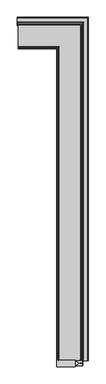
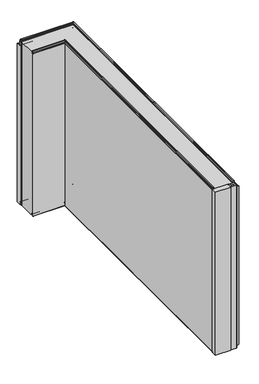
"""IFC4 building model written with IfcOpenShell, lengths in millimetres: plate geometry, Угловой модуль Fronttop : Угловой модуль Fronttop 150/1000."""

from ifc_helpers import new_model, si_unit, point, frame, frame_2d, origin, origin_with_axes, place, context, project, spatial, polyline, circle_curve, ellipse_curve, trimmed, segment, composite_curve, outline, extrude, source, transform, mapped, element, save
from ifc_brep_helpers import plane_surface, cylinder_surface, revolved_surface, advanced_brep


def plate_8496f46f(model_context):
    return source(origin(), model_context, "Body", "SolidModel", [
        extrude(outline(polyline([(150.0, -1488.4948846), (150.0, -1511.5051154), (148.5, -1511.5051154), (148.5, -1500.6502496), (134.0759655, -1500.6502496), (134.0759655, -1499.35), (148.5, -1499.35), (148.5, -1488.4948846), (150.0, -1488.4948846)])), origin_with_axes(), (0.0, 0.0, 1.0), 1000.0),
        extrude(outline(composite_curve([segment(polyline([(148.5, -1487.4998455), (148.5, -1499.25), (132.5, -1499.25), (132.5, -1500.75), (148.5, -1500.75), (148.5, -1512.5001545), (115.0, -1512.5001545), (115.0, -1509.75), (117.5, -1509.75)]), True, "CONTINUOUS"), segment(trimmed(circle_curve(frame_2d((114.3183984, -1491.9661979)), 18.0661619), [point((117.5, -1509.75))], [point((130.5, -1500.0))], True, "CARTESIAN"), True, "CONTINUOUS"), segment(trimmed(circle_curve(frame_2d((114.3183984, -1508.0338021)), 18.0661619), [point((130.5, -1500.0))], [point((117.5, -1490.25))], True, "CARTESIAN"), True, "CONTINUOUS"), segment(polyline([(117.5, -1490.25), (115.0, -1490.25), (115.0, -1487.4998455), (148.5, -1487.4998455)]), True, "CONTINUOUS")], self_intersect=False)), origin_with_axes(), (0.0, 0.0, 1.0), 1000.0),
        extrude(outline(polyline([(25.0, -1515.5), (25.0, -1484.5), (113.0, -1484.5), (113.0, -1515.5), (25.0, -1515.5)])), origin_with_axes(), (0.0, 0.0, 1.0), 1000.0),
        advanced_brep(
        [(-161.5, 124.0, 1008.0), (-161.5, 121.0, 1008.0), (-161.5, 121.0, 1004.0), (-161.5, 117.0, 1000.0), (-161.5, 115.0, 1000.0), (-161.5, 115.0, 1001.0), (-161.5, 117.0, 1001.0), (-161.5, 120.0, 1004.0), (-161.5, 120.0, 1008.0), (-161.5, 125.0, 1008.0), (-161.5, 125.0, 1000.0), (-161.5, 124.0, 1000.0), (-161.5, 115.0, 2.0), (140.0, 115.0, 2.0), (140.0, 115.0, 3.0), (-161.5, 115.0, 3.0), (140.0, -1486.5, 3.0), (142.0, -1486.5, 3.0), (142.0, 117.0, 3.0), (-161.5, 117.0, 3.0), (143.0, 118.0, 4.0), (-161.5, 118.0, 4.0), (143.0, 118.0, 8.0), (-161.5, 118.0, 8.0), (152.0, 127.0, 8.0), (-161.5, 127.0, 8.0), (152.0, 127.0, 0.0), (-161.5, 127.0, 0.0), (154.0, 129.0, -2.0), (-161.5, 129.0, -2.0), (154.0, -1486.5, -2.0), (172.0, -1486.5, -2.0), (172.0, 147.0, -2.0), (-161.5, 147.0, -2.0), (174.0, 149.0, 0.0), (-161.5, 149.0, 0.0), (174.0, 149.0, 969.0), (-161.5, 149.0, 969.0), (172.0, 147.0, 971.0), (-161.5, 147.0, 971.0), (172.0, -1486.5, 971.0), (153.0, -1486.5, 971.0), (153.0, 128.0, 971.0), (-161.5, 128.0, 971.0), (149.0, 124.0, 975.0), (-161.5, 124.0, 975.0), (149.0, 124.0, 1008.0), (146.0, 121.0, 1008.0), (146.0, 121.0, 1004.0), (142.0, 117.0, 1000.0), (142.0, -1486.5, 1000.0), (140.0, -1486.5, 1000.0), (140.0, 115.0, 1000.0), (140.0, 115.0, 1001.0), (140.0, -1486.5, 1001.0), (142.0, -1486.5, 1001.0), (142.0, 117.0, 1001.0), (145.0, 120.0, 1004.0), (145.0, 120.0, 1008.0), (150.0, 125.0, 1008.0), (150.0, 125.0, 975.0), (-161.5, 125.0, 975.0), (-162.5, 125.0, 975.0), (-162.5, 125.0, 1000.0), (153.0, 128.0, 972.0), (-161.5, 128.0, 972.0), (153.0, -1486.5, 972.0), (153.0, -1487.5, 972.0), (172.0, -1487.5, 972.0), (172.0, -1486.5, 972.0), (172.0, 147.0, 972.0), (-161.5, 147.0, 972.0), (-162.5, 147.0, 972.0), (-162.5, 128.0, 972.0), (175.0, 150.0, 969.0), (-161.5, 150.0, 969.0), (175.0, 150.0, 0.0), (-161.5, 150.0, 0.0), (-162.5, 150.0, 0.0), (-162.5, 150.0, 969.0), (172.0, 147.0, -3.0), (-161.5, 147.0, -3.0), (172.0, -1486.5, -3.0), (172.0, -1487.5, -3.0), (150.0, -1487.5, -3.0), (150.0, -1486.5, -3.0), (154.0, -1486.5, -3.0), (154.0, 129.0, -3.0), (-161.5, 129.0, -3.0), (-161.5, 125.0, -3.0), (-162.5, 125.0, -3.0), (-162.5, 147.0, -3.0), (151.0, 126.0, 0.0), (-161.5, 126.0, 0.0), (151.0, 126.0, 8.0), (-161.5, 126.0, 8.0), (144.0, 119.0, 8.0), (-161.5, 119.0, 8.0), (144.0, 119.0, 4.0), (-161.5, 119.0, 4.0), (142.0, 117.0, 2.0), (-161.5, 117.0, 2.0), (142.0, -1486.5, 2.0), (140.0, -1486.5, 2.0), (146.0, -1486.5, 1004.0), (146.0, -1486.5, 1008.0), (149.0, -1486.5, 1008.0), (149.0, -1486.5, 1000.0), (150.0, -1486.5, 1000.0), (150.0, -1486.5, 1008.0), (145.0, -1486.5, 1008.0), (145.0, -1486.5, 1004.0), (143.0, -1486.5, 4.0), (143.0, -1486.5, 8.0), (152.0, -1486.5, 8.0), (152.0, -1486.5, 0.0), (174.0, -1486.5, 0.0), (174.0, -1486.5, 969.0), (149.0, -1486.5, 975.0), (150.0, -1487.5, 1000.0), (150.0, -1487.5, 975.0), (150.0, -1486.5, 975.0), (175.0, -1486.5, 969.0), (175.0, -1487.5, 969.0), (175.0, -1487.5, 0.0), (175.0, -1486.5, 0.0), (151.0, -1486.5, 0.0), (151.0, -1486.5, 8.0), (144.0, -1486.5, 8.0), (144.0, -1486.5, 4.0), (-161.5, 110.0, 1000.0), (-161.5, 110.0, 0.0), (-161.5, 125.0, 0.0), (-162.5, 125.0, 0.0), (-162.5, 110.0, 0.0), (-162.5, 110.0, 1000.0), (135.0, -1486.5, 0.0), (135.0, -1486.5, 1000.0), (150.0, -1486.5, 0.0), (135.0, -1487.5, 0.0), (150.0, -1487.5, 0.0), (135.0, -1487.5, 1000.0)],
        [
            (0, 1, circle_curve(frame((-161.5, 122.5, 1008.0), z_axis=(1.0, 0.0, 0.0), x_axis=(0.0, -1.0, 0.0)), 1.5)),
            (1, 2),
            (2, 3, circle_curve(frame((-161.5, 117.0, 1004.0), z_axis=(-1.0, 0.0, 0.0), x_axis=(0.0, -1.0, 0.0)), 4.0)),
            (3, 4),
            (4, 5),
            (5, 6),
            (6, 7, circle_curve(frame((-161.5, 117.0, 1004.0), z_axis=(1.0, 0.0, 0.0), x_axis=(0.0, -1.0, 0.0)), 3.0)),
            (7, 8),
            (8, 9, circle_curve(frame((-161.5, 122.5, 1008.0), z_axis=(-1.0, 0.0, 0.0), x_axis=(0.0, -1.0, 0.0)), 2.5)),
            (9, 10),
            (10, 11),
            (11, 0),
            (12, 13),
            (13, 14),
            (14, 15),
            (15, 12),
            (14, 16),
            (16, 17),
            (17, 18),
            (18, 19),
            (19, 15),
            (18, 20, ellipse_curve(frame((142.0, 117.0, 4.0), z_axis=(0.7071067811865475, -0.7071067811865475, 0.0), x_axis=(0.7071067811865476, 0.7071067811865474, 0.0)), 1.4142136, 1.0)),
            (20, 21),
            (21, 19, circle_curve(frame((-161.5, 117.0, 4.0), z_axis=(-1.0, 0.0, 0.0), x_axis=(0.0, -1.0, 0.0)), 1.0)),
            (20, 22),
            (22, 23),
            (23, 21),
            (22, 24, ellipse_curve(frame((147.5, 122.5, 8.0), z_axis=(-0.7071067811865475, 0.7071067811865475, 0.0), x_axis=(-0.7071067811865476, -0.7071067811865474, 0.0)), 6.363961, 4.5)),
            (24, 25),
            (25, 23, circle_curve(frame((-161.5, 122.5, 8.0), z_axis=(1.0, 0.0, 0.0), x_axis=(0.0, -1.0, 0.0)), 4.5)),
            (24, 26),
            (26, 27),
            (27, 25),
            (26, 28, ellipse_curve(frame((154.0, 129.0, 0.0), z_axis=(0.7071067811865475, -0.7071067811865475, 0.0), x_axis=(0.7071067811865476, 0.7071067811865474, 0.0)), 2.8284271, 2.0)),
            (28, 29),
            (29, 27, circle_curve(frame((-161.5, 129.0, 0.0), z_axis=(-1.0, 0.0, 0.0), x_axis=(0.0, -1.0, 0.0)), 2.0)),
            (28, 30),
            (30, 31),
            (31, 32),
            (32, 33),
            (33, 29),
            (32, 34, ellipse_curve(frame((172.0, 147.0, 0.0), z_axis=(0.7071067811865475, -0.7071067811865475, 0.0), x_axis=(0.7071067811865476, 0.7071067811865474, 0.0)), 2.8284271, 2.0)),
            (34, 35),
            (35, 33, circle_curve(frame((-161.5, 147.0, 0.0), z_axis=(-1.0, 0.0, 0.0), x_axis=(0.0, -1.0, 0.0)), 2.0)),
            (34, 36),
            (36, 37),
            (37, 35),
            (36, 38, ellipse_curve(frame((172.0, 147.0, 969.0), z_axis=(0.7071067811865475, -0.7071067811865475, 0.0), x_axis=(0.7071067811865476, 0.7071067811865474, 0.0)), 2.8284271, 2.0)),
            (38, 39),
            (39, 37, circle_curve(frame((-161.5, 147.0, 969.0), z_axis=(-1.0, 0.0, 0.0), x_axis=(0.0, -1.0, 0.0)), 2.0)),
            (38, 40),
            (40, 41),
            (41, 42),
            (42, 43),
            (43, 39),
            (42, 44, ellipse_curve(frame((153.0, 128.0, 975.0), z_axis=(-0.7071067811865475, 0.7071067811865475, 0.0), x_axis=(-0.7071067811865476, -0.7071067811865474, 0.0)), 5.6568542, 4.0)),
            (44, 45),
            (45, 43, circle_curve(frame((-161.5, 128.0, 975.0), z_axis=(1.0, 0.0, 0.0), x_axis=(0.0, -1.0, 0.0)), 4.0)),
            (44, 46),
            (46, 0),
            (11, 45),
            (46, 47, ellipse_curve(frame((147.5, 122.5, 1008.0), z_axis=(0.7071067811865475, -0.7071067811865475, 0.0), x_axis=(0.7071067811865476, 0.7071067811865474, 0.0)), 2.1213203, 1.5)),
            (47, 1),
            (47, 48),
            (48, 2),
            (48, 49, ellipse_curve(frame((142.0, 117.0, 1004.0), z_axis=(-0.7071067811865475, 0.7071067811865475, 0.0), x_axis=(-0.7071067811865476, -0.7071067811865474, 0.0)), 5.6568542, 4.0)),
            (49, 3),
            (49, 50),
            (50, 51),
            (51, 52),
            (52, 4),
            (4, 3),
            (52, 53),
            (53, 5),
            (53, 54),
            (54, 55),
            (55, 56),
            (56, 6),
            (56, 57, ellipse_curve(frame((142.0, 117.0, 1004.0), z_axis=(0.7071067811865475, -0.7071067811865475, 0.0), x_axis=(0.7071067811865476, 0.7071067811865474, 0.0)), 4.2426407, 3.0)),
            (57, 7),
            (57, 58),
            (58, 8),
            (58, 59, ellipse_curve(frame((147.5, 122.5, 1008.0), z_axis=(-0.7071067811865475, 0.7071067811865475, 0.0), x_axis=(-0.7071067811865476, -0.7071067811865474, 0.0)), 3.5355339, 2.5)),
            (59, 9),
            (59, 60),
            (60, 61),
            (61, 62),
            (62, 63),
            (63, 10),
            (60, 64, ellipse_curve(frame((153.0, 128.0, 975.0), z_axis=(0.7071067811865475, -0.7071067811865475, 0.0), x_axis=(0.7071067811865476, 0.7071067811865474, 0.0)), 4.2426407, 3.0)),
            (64, 65),
            (65, 61, circle_curve(frame((-161.5, 128.0, 975.0), z_axis=(-1.0, 0.0, 0.0), x_axis=(0.0, -1.0, 0.0)), 3.0)),
            (64, 66),
            (66, 67),
            (67, 68),
            (68, 69),
            (69, 70),
            (70, 71),
            (71, 72),
            (72, 73),
            (73, 65),
            (70, 74, ellipse_curve(frame((172.0, 147.0, 969.0), z_axis=(-0.7071067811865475, 0.7071067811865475, 0.0), x_axis=(-0.7071067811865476, -0.7071067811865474, 0.0)), 4.2426407, 3.0)),
            (74, 75),
            (75, 71, circle_curve(frame((-161.5, 147.0, 969.0), z_axis=(1.0, 0.0, 0.0), x_axis=(0.0, -1.0, 0.0)), 3.0)),
            (74, 76),
            (76, 77),
            (77, 78),
            (78, 79),
            (79, 75),
            (76, 80, ellipse_curve(frame((172.0, 147.0, 0.0), z_axis=(-0.7071067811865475, 0.7071067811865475, 0.0), x_axis=(-0.7071067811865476, -0.7071067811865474, 0.0)), 4.2426407, 3.0)),
            (80, 81),
            (81, 77, circle_curve(frame((-161.5, 147.0, 0.0), z_axis=(1.0, 0.0, 0.0), x_axis=(0.0, -1.0, 0.0)), 3.0)),
            (80, 82),
            (82, 83),
            (83, 84),
            (84, 85),
            (85, 86),
            (86, 87),
            (87, 88),
            (88, 89),
            (89, 90),
            (90, 91),
            (91, 81),
            (87, 92, ellipse_curve(frame((154.0, 129.0, 0.0), z_axis=(-0.7071067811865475, 0.7071067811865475, 0.0), x_axis=(-0.7071067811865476, -0.7071067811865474, 0.0)), 4.2426407, 3.0)),
            (92, 93),
            (93, 88, circle_curve(frame((-161.5, 129.0, 0.0), z_axis=(1.0, 0.0, 0.0), x_axis=(0.0, -1.0, 0.0)), 3.0)),
            (92, 94),
            (94, 95),
            (95, 93),
            (94, 96, ellipse_curve(frame((147.5, 122.5, 8.0), z_axis=(0.7071067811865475, -0.7071067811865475, 0.0), x_axis=(0.7071067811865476, 0.7071067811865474, 0.0)), 4.9497475, 3.5)),
            (96, 97),
            (97, 95, circle_curve(frame((-161.5, 122.5, 8.0), z_axis=(-1.0, 0.0, 0.0), x_axis=(0.0, -1.0, 0.0)), 3.5)),
            (96, 98),
            (98, 99),
            (99, 97),
            (98, 100, ellipse_curve(frame((142.0, 117.0, 4.0), z_axis=(-0.7071067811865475, 0.7071067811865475, 0.0), x_axis=(-0.7071067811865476, -0.7071067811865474, 0.0)), 2.8284271, 2.0)),
            (100, 101),
            (101, 99, circle_curve(frame((-161.5, 117.0, 4.0), z_axis=(1.0, 0.0, 0.0), x_axis=(0.0, -1.0, 0.0)), 2.0)),
            (12, 101),
            (100, 102),
            (102, 103),
            (103, 13),
            (54, 51),
            (51, 50),
            (50, 104, circle_curve(frame((142.0, -1486.5, 1004.0), z_axis=(0.0, -1.0, 0.0), x_axis=(-1.0, 0.0, 0.0)), 4.0)),
            (104, 105),
            (105, 106, circle_curve(frame((147.5, -1486.5, 1008.0), z_axis=(0.0, 1.0, 0.0), x_axis=(-1.0, 0.0, 0.0)), 1.5)),
            (106, 107),
            (107, 108),
            (108, 109),
            (109, 110, circle_curve(frame((147.5, -1486.5, 1008.0), z_axis=(0.0, -1.0, 0.0), x_axis=(-1.0, 0.0, 0.0)), 2.5)),
            (110, 111),
            (111, 55, circle_curve(frame((142.0, -1486.5, 1004.0), z_axis=(0.0, 1.0, 0.0), x_axis=(-1.0, 0.0, 0.0)), 3.0)),
            (103, 16),
            (17, 112, circle_curve(frame((142.0, -1486.5, 4.0), z_axis=(0.0, -1.0, 0.0), x_axis=(-1.0, 0.0, 0.0)), 1.0)),
            (112, 20),
            (112, 113),
            (113, 22),
            (113, 114, circle_curve(frame((147.5, -1486.5, 8.0), z_axis=(0.0, 1.0, 0.0), x_axis=(-1.0, 0.0, 0.0)), 4.5)),
            (114, 24),
            (114, 115),
            (115, 26),
            (115, 30, circle_curve(frame((154.0, -1486.5, 0.0), z_axis=(0.0, -1.0, 0.0), x_axis=(-1.0, 0.0, 0.0)), 2.0)),
            (31, 116, circle_curve(frame((172.0, -1486.5, 0.0), z_axis=(0.0, -1.0, 0.0), x_axis=(-1.0, 0.0, 0.0)), 2.0)),
            (116, 34),
            (116, 117),
            (117, 36),
            (117, 40, circle_curve(frame((172.0, -1486.5, 969.0), z_axis=(0.0, -1.0, 0.0), x_axis=(-1.0, 0.0, 0.0)), 2.0)),
            (41, 118, circle_curve(frame((153.0, -1486.5, 975.0), z_axis=(0.0, 1.0, 0.0), x_axis=(-1.0, 0.0, 0.0)), 4.0)),
            (118, 44),
            (118, 107),
            (106, 46),
            (105, 47),
            (104, 48),
            (111, 57),
            (110, 58),
            (109, 59),
            (108, 119),
            (119, 120),
            (120, 121),
            (121, 60),
            (121, 66, circle_curve(frame((153.0, -1486.5, 975.0), z_axis=(0.0, -1.0, 0.0), x_axis=(-1.0, 0.0, 0.0)), 3.0)),
            (69, 122, circle_curve(frame((172.0, -1486.5, 969.0), z_axis=(0.0, 1.0, 0.0), x_axis=(-1.0, 0.0, 0.0)), 3.0)),
            (122, 74),
            (122, 123),
            (123, 124),
            (124, 125),
            (125, 76),
            (125, 82, circle_curve(frame((172.0, -1486.5, 0.0), z_axis=(0.0, 1.0, 0.0), x_axis=(-1.0, 0.0, 0.0)), 3.0)),
            (86, 126, circle_curve(frame((154.0, -1486.5, 0.0), z_axis=(0.0, 1.0, 0.0), x_axis=(-1.0, 0.0, 0.0)), 3.0)),
            (126, 92),
            (126, 127),
            (127, 94),
            (127, 128, circle_curve(frame((147.5, -1486.5, 8.0), z_axis=(0.0, -1.0, 0.0), x_axis=(-1.0, 0.0, 0.0)), 3.5)),
            (128, 96),
            (128, 129),
            (129, 98),
            (129, 102, circle_curve(frame((142.0, -1486.5, 4.0), z_axis=(0.0, 1.0, 0.0), x_axis=(-1.0, 0.0, 0.0)), 2.0)),
            (130, 131),
            (131, 132),
            (132, 89),
            (11, 3),
            (4, 130),
            (62, 73, circle_curve(frame((-162.5, 128.0, 975.0), z_axis=(1.0, 0.0, 0.0), x_axis=(0.0, 1.0, 0.0)), 3.0)),
            (72, 79, circle_curve(frame((-162.5, 147.0, 969.0), z_axis=(-1.0, 0.0, 0.0), x_axis=(0.0, 1.0, 0.0)), 3.0)),
            (78, 91, circle_curve(frame((-162.5, 147.0, 0.0), z_axis=(-1.0, 0.0, 0.0), x_axis=(0.0, 1.0, 0.0)), 3.0)),
            (90, 133),
            (133, 134),
            (134, 135),
            (135, 63),
            (135, 130),
            (134, 131),
            (133, 132),
            (136, 137),
            (137, 51),
            (50, 107),
            (85, 138),
            (138, 136),
            (139, 140),
            (140, 84),
            (83, 124, circle_curve(frame((172.0, -1487.5, 0.0), z_axis=(0.0, -1.0, 0.0), x_axis=(-1.0, 0.0, 0.0)), 3.0)),
            (123, 68, circle_curve(frame((172.0, -1487.5, 969.0), z_axis=(0.0, -1.0, 0.0), x_axis=(-1.0, 0.0, 0.0)), 3.0)),
            (67, 120, circle_curve(frame((153.0, -1487.5, 975.0), z_axis=(0.0, 1.0, 0.0), x_axis=(-1.0, 0.0, 0.0)), 3.0)),
            (119, 141),
            (141, 139),
            (138, 140),
            (139, 136),
            (137, 141),
        ],
        [
            plane_surface(frame((-161.5, 0.0, 0.0), z_axis=(-1.0, 0.0, 0.0), x_axis=(0.0, 0.0, 1.0))),
            plane_surface(frame((-161.5, 115.0, 2.0), z_axis=(0.0, -1.0, 0.0), x_axis=(1.0, 0.0, 0.0))),
            plane_surface(frame((-161.5, 115.0, 3.0), z_axis=(0.0, 0.0, 1.0), x_axis=(1.0, 0.0, 0.0))),
            revolved_surface(polyline([(143.00000002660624, 116.0, 4.0), (-161.5, 116.0, 4.0)]), (-161.5, 117.0, 4.0), (1.0, 0.0, 0.0)),
            plane_surface(frame((-161.5, 118.0, 4.0), z_axis=(0.0, -1.0, 0.0), x_axis=(1.0, 0.0, 0.0))),
            cylinder_surface(frame((-161.5, 122.5, 8.0), z_axis=(-1.0, 0.0, 0.0), x_axis=(0.0, -1.0, 0.0)), 4.5),
            plane_surface(frame((-161.5, 127.0, 8.0), z_axis=(0.0, 1.0, 0.0), x_axis=(1.0, 0.0, 0.0))),
            revolved_surface(polyline([(155.99999998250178, 127.0, 0.0), (-161.5, 127.0, 0.0)]), (-161.5, 129.0, 0.0), (1.0, 0.0, 0.0)),
            plane_surface(frame((-161.5, 129.0, -2.0), z_axis=(0.0, 0.0, 1.0), x_axis=(1.0, 0.0, 0.0))),
            revolved_surface(polyline([(174.0, 145.0, 0.0), (-161.5, 145.0, 0.0)]), (-161.5, 147.0, 0.0), (1.0, 0.0, 0.0)),
            plane_surface(frame((-161.5, 149.0, 0.0), z_axis=(0.0, -1.0, 0.0), x_axis=(1.0, 0.0, 0.0))),
            revolved_surface(polyline([(174.0, 145.0, 969.0), (-161.5, 145.0, 969.0)]), (-161.5, 147.0, 969.0), (1.0, 0.0, 0.0)),
            plane_surface(frame((-161.5, 147.0, 971.0), z_axis=(0.0, 0.0, -1.0), x_axis=(1.0, 0.0, 0.0))),
            cylinder_surface(frame((-161.5, 128.0, 975.0), z_axis=(-1.0, 0.0, 0.0), x_axis=(0.0, -1.0, 0.0)), 4.0),
            plane_surface(frame((-161.5, 124.0, 975.0), z_axis=(0.0, -1.0, 0.0), x_axis=(1.0, 0.0, 0.0))),
            revolved_surface(polyline([(149.0, 121.0, 1008.0), (-161.5, 121.0, 1008.0)]), (-161.5, 122.5, 1008.0), (1.0, 0.0, 0.0)),
            plane_surface(frame((-161.5, 121.0, 1008.0), z_axis=(0.0, 1.0, 0.0), x_axis=(1.0, 0.0, 0.0))),
            cylinder_surface(frame((-161.5, 117.0, 1004.0), z_axis=(-1.0, 0.0, 0.0), x_axis=(0.0, -1.0, 0.0)), 4.0),
            plane_surface(frame((-161.5, 117.0, 1000.0), z_axis=(0.0, 0.0, -1.0), x_axis=(1.0, 0.0, 0.0))),
            plane_surface(frame((-161.5, 115.0, 1000.0), z_axis=(0.0, -1.0, 0.0), x_axis=(1.0, 0.0, 0.0))),
            plane_surface(frame((-161.5, 115.0, 1001.0), z_axis=(0.0, 0.0, 1.0), x_axis=(1.0, 0.0, 0.0))),
            revolved_surface(polyline([(145.00000000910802, 114.0, 1004.0), (-161.5, 114.0, 1004.0)]), (-161.5, 117.0, 1004.0), (1.0, 0.0, 0.0)),
            plane_surface(frame((-161.5, 120.0, 1004.0), z_axis=(0.0, -1.0, 0.0), x_axis=(1.0, 0.0, 0.0))),
            cylinder_surface(frame((-161.5, 122.5, 1008.0), z_axis=(-1.0, 0.0, 0.0), x_axis=(0.0, -1.0, 0.0)), 2.5),
            plane_surface(frame((-161.5, 125.0, 1008.0), z_axis=(0.0, 1.0, 0.0), x_axis=(1.0, 0.0, 0.0))),
            revolved_surface(polyline([(156.00000000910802, 125.0, 975.0), (-161.5, 125.0, 975.0)]), (-161.5, 128.0, 975.0), (1.0, 0.0, 0.0)),
            plane_surface(frame((-161.5, 128.0, 972.0), z_axis=(0.0, 0.0, 1.0), x_axis=(1.0, 0.0, 0.0))),
            cylinder_surface(frame((-161.5, 147.0, 969.0), z_axis=(-1.0, 0.0, 0.0), x_axis=(0.0, -1.0, 0.0)), 3.0),
            plane_surface(frame((-161.5, 150.0, 969.0), z_axis=(0.0, 1.0, 0.0), x_axis=(1.0, 0.0, 0.0))),
            cylinder_surface(frame((-161.5, 147.0, 0.0), z_axis=(-1.0, 0.0, 0.0), x_axis=(0.0, -1.0, 0.0)), 3.0),
            plane_surface(frame((-161.5, 147.0, -3.0), z_axis=(0.0, 0.0, -1.0), x_axis=(1.0, 0.0, 0.0))),
            cylinder_surface(frame((-161.5, 129.0, 0.0), z_axis=(-1.0, 0.0, 0.0), x_axis=(0.0, -1.0, 0.0)), 3.0),
            plane_surface(frame((-161.5, 126.0, 0.0), z_axis=(0.0, -1.0, 0.0), x_axis=(1.0, 0.0, 0.0))),
            revolved_surface(polyline([(151.00000002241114, 119.0, 8.0), (-161.5, 119.0, 8.0)]), (-161.5, 122.5, 8.0), (1.0, 0.0, 0.0)),
            plane_surface(frame((-161.5, 119.0, 8.0), z_axis=(0.0, 1.0, 0.0), x_axis=(1.0, 0.0, 0.0))),
            cylinder_surface(frame((-161.5, 117.0, 4.0), z_axis=(-1.0, 0.0, 0.0), x_axis=(0.0, -1.0, 0.0)), 2.0),
            plane_surface(frame((-161.5, 117.0, 2.0), z_axis=(0.0, 0.0, -1.0), x_axis=(1.0, 0.0, 0.0))),
            plane_surface(frame((25.0, -1486.5, 0.0), z_axis=(0.0, -1.0, 0.0), x_axis=(0.0, 0.0, 1.0))),
            plane_surface(frame((140.0, 115.0, 2.0), z_axis=(-1.0, 0.0, 0.0), x_axis=(0.0, -1.0, 0.0))),
            revolved_surface(polyline([(141.0, -1486.5, 4.0), (141.0, 118.00000002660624, 4.0)]), (142.0, 0.0, 4.0), (0.0, -1.0, 0.0)),
            plane_surface(frame((143.0, 118.0, 4.0), z_axis=(-1.0, 0.0, 0.0), x_axis=(0.0, -1.0, 0.0))),
            cylinder_surface(frame((147.5, 0.0, 8.0), z_axis=(0.0, 1.0, 0.0), x_axis=(-1.0, 0.0, 0.0)), 4.5),
            plane_surface(frame((152.0, 127.0, 8.0), z_axis=(1.0, 0.0, 0.0), x_axis=(0.0, -1.0, 0.0))),
            revolved_surface(polyline([(152.0, -1486.5, 0.0), (152.0, 130.9999999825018, 0.0)]), (154.0, 0.0, 0.0), (0.0, -1.0, 0.0)),
            revolved_surface(polyline([(170.0, -1486.5, 0.0), (170.0, 149.0, 0.0)]), (172.0, 0.0, 0.0), (0.0, -1.0, 0.0)),
            plane_surface(frame((174.0, 149.0, 0.0), z_axis=(-1.0, 0.0, 0.0), x_axis=(0.0, -1.0, 0.0))),
            revolved_surface(polyline([(170.0, -1486.5, 969.0), (170.0, 149.0, 969.0)]), (172.0, 0.0, 969.0), (0.0, -1.0, 0.0)),
            cylinder_surface(frame((153.0, 0.0, 975.0), z_axis=(0.0, 1.0, 0.0), x_axis=(-1.0, 0.0, 0.0)), 4.0),
            plane_surface(frame((149.0, 124.0, 975.0), z_axis=(-1.0, 0.0, 0.0), x_axis=(0.0, -1.0, 0.0))),
            revolved_surface(polyline([(146.0, -1486.5, 1008.0), (146.0, 124.0, 1008.0)]), (147.5, 0.0, 1008.0), (0.0, -1.0, 0.0)),
            plane_surface(frame((146.0, 121.0, 1008.0), z_axis=(1.0, 0.0, 0.0), x_axis=(0.0, -1.0, 0.0))),
            cylinder_surface(frame((142.0, 0.0, 1004.0), z_axis=(0.0, 1.0, 0.0), x_axis=(-1.0, 0.0, 0.0)), 4.0),
            plane_surface(frame((140.0, 115.0, 1000.0), z_axis=(-1.0, 0.0, 0.0), x_axis=(0.0, -1.0, 0.0))),
            revolved_surface(polyline([(139.0, -1486.5, 1004.0), (139.0, 120.00000000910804, 1004.0)]), (142.0, 0.0, 1004.0), (0.0, -1.0, 0.0)),
            plane_surface(frame((145.0, 120.0, 1004.0), z_axis=(-1.0, 0.0, 0.0), x_axis=(0.0, -1.0, 0.0))),
            cylinder_surface(frame((147.5, 0.0, 1008.0), z_axis=(0.0, 1.0, 0.0), x_axis=(-1.0, 0.0, 0.0)), 2.5),
            plane_surface(frame((150.0, 125.0, 1008.0), z_axis=(1.0, 0.0, 0.0), x_axis=(0.0, -1.0, 0.0))),
            revolved_surface(polyline([(150.0, -1486.5, 975.0), (150.0, 131.00000000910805, 975.0)]), (153.0, 0.0, 975.0), (0.0, -1.0, 0.0)),
            cylinder_surface(frame((172.0, 0.0, 969.0), z_axis=(0.0, 1.0, 0.0), x_axis=(-1.0, 0.0, 0.0)), 3.0),
            plane_surface(frame((175.0, 150.0, 969.0), z_axis=(1.0, 0.0, 0.0), x_axis=(0.0, -1.0, 0.0))),
            cylinder_surface(frame((172.0, 0.0, 0.0), z_axis=(0.0, 1.0, 0.0), x_axis=(-1.0, 0.0, 0.0)), 3.0),
            cylinder_surface(frame((154.0, 0.0, 0.0), z_axis=(0.0, 1.0, 0.0), x_axis=(-1.0, 0.0, 0.0)), 3.0),
            plane_surface(frame((151.0, 126.0, 0.0), z_axis=(-1.0, 0.0, 0.0), x_axis=(0.0, -1.0, 0.0))),
            revolved_surface(polyline([(144.0, -1486.5, 8.0), (144.0, 126.00000002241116, 8.0)]), (147.5, 0.0, 8.0), (0.0, -1.0, 0.0)),
            plane_surface(frame((144.0, 119.0, 8.0), z_axis=(1.0, 0.0, 0.0), x_axis=(0.0, -1.0, 0.0))),
            cylinder_surface(frame((142.0, 0.0, 4.0), z_axis=(0.0, 1.0, 0.0), x_axis=(-1.0, 0.0, 0.0)), 2.0),
            plane_surface(frame((-161.5, 125.0, 1000.0), z_axis=(1.0, 0.0, 0.0), x_axis=(0.0, -1.0, 0.0))),
            plane_surface(frame((-162.5, 125.0, 1000.0), z_axis=(-1.0, 0.0, 0.0), x_axis=(0.0, 1.0, 0.0))),
            plane_surface(frame((-161.5, 125.0, 1000.0), z_axis=(0.0, 0.0, 1.0), x_axis=(-1.0, 0.0, 0.0))),
            plane_surface(frame((-161.5, 110.0, 1000.0), z_axis=(0.0, -1.0, 0.0), x_axis=(-1.0, 0.0, 0.0))),
            plane_surface(frame((-161.5, 110.0, 0.0), z_axis=(0.0, 0.0, -1.0), x_axis=(-1.0, 0.0, 0.0))),
            plane_surface(frame((-161.5, 125.0, 0.0), z_axis=(0.0, -1.0, 0.0), x_axis=(-1.0, 0.0, 0.0))),
            cylinder_surface(frame((-162.5, 147.0, 0.0), z_axis=(1.0, 0.0, 0.0), x_axis=(0.0, 1.0, 0.0)), 3.0),
            cylinder_surface(frame((-162.5, 147.0, 969.0), z_axis=(1.0, 0.0, 0.0), x_axis=(0.0, 1.0, 0.0)), 3.0),
            revolved_surface(polyline([(-162.5, 131.0, 975.0), (-161.5, 131.0, 975.0)]), (-162.5, 128.0, 975.0), (-1.0, 0.0, 0.0)),
            plane_surface(frame((135.0, -1486.5, 1000.0), z_axis=(0.0, 1.0, 0.0), x_axis=(0.0, 0.0, 1.0))),
            plane_surface(frame((135.0, -1487.5, 1000.0), z_axis=(0.0, -1.0, 0.0), x_axis=(0.0, 0.0, -1.0))),
            plane_surface(frame((150.0, -1486.5, 0.0), z_axis=(0.0, 0.0, -1.0), x_axis=(0.0, -1.0, 0.0))),
            plane_surface(frame((150.0, -1486.5, -3.0), z_axis=(-1.0, 0.0, 0.0), x_axis=(0.0, -1.0, 0.0))),
            cylinder_surface(frame((172.0, -1487.5, 0.0), z_axis=(0.0, 1.0, 0.0), x_axis=(-1.0, 0.0, 0.0)), 3.0),
            cylinder_surface(frame((172.0, -1487.5, 969.0), z_axis=(0.0, 1.0, 0.0), x_axis=(-1.0, 0.0, 0.0)), 3.0),
            revolved_surface(polyline([(150.0, -1487.5, 975.0), (150.0, -1486.5, 975.0)]), (153.0, -1487.5, 975.0), (0.0, -1.0, 0.0)),
            plane_surface(frame((135.0, -1486.5, 1000.0), z_axis=(0.0, 0.0, 1.0), x_axis=(0.0, -1.0, 0.0))),
            plane_surface(frame((135.0, -1486.5, 0.0), z_axis=(-1.0, 0.0, 0.0), x_axis=(0.0, -1.0, 0.0))),
        ],
        [
            (0, [[1, 2, 3, 4, 5, 6, 7, 8, 9, 10, 11, 12]]),
            (1, [[13, 14, 15, 16]]),
            (2, [[-15, 17, 18, 19, 20, 21]]),
            (3, [[-20, 22, 23, 24]]),
            (4, [[-23, 25, 26, 27]]),
            (5, [[-26, 28, 29, 30]]),
            (6, [[-29, 31, 32, 33]]),
            (7, [[-32, 34, 35, 36]]),
            (8, [[-35, 37, 38, 39, 40, 41]]),
            (9, [[-40, 42, 43, 44]]),
            (10, [[-43, 45, 46, 47]]),
            (11, [[-46, 48, 49, 50]]),
            (12, [[-49, 51, 52, 53, 54, 55]]),
            (13, [[-54, 56, 57, 58]]),
            (14, [[-57, 59, 60, -12, 61]]),
            (15, [[-1, -60, 62, 63]]),
            (16, [[-2, -63, 64, 65]]),
            (17, [[-3, -65, 66, 67]]),
            (18, [[-67, 68, 69, 70, 71, 72]]),
            (19, [[-5, -71, 73, 74]]),
            (20, [[-6, -74, 75, 76, 77, 78]]),
            (21, [[-7, -78, 79, 80]]),
            (22, [[-8, -80, 81, 82]]),
            (23, [[-9, -82, 83, 84]]),
            (24, [[-84, 85, 86, 87, 88, 89, -10]]),
            (25, [[-86, 90, 91, 92]]),
            (26, [[-91, 93, 94, 95, 96, 97, 98, 99, 100, 101]]),
            (27, [[-98, 102, 103, 104]]),
            (28, [[-103, 105, 106, 107, 108, 109]]),
            (29, [[-106, 110, 111, 112]]),
            (30, [[-111, 113, 114, 115, 116, 117, 118, 119, 120, 121, 122, 123]]),
            (31, [[-119, 124, 125, 126]]),
            (32, [[-125, 127, 128, 129]]),
            (33, [[-128, 130, 131, 132]]),
            (34, [[-131, 133, 134, 135]]),
            (35, [[-134, 136, 137, 138]]),
            (36, [[-13, 139, -137, 140, 141, 142]]),
            (37, [[-76, 143, 144, 145, 146, 147, 148, 149, 150, 151, 152, 153]]),
            (38, [[-14, -142, 154, -17]]),
            (39, [[-19, 155, 156, -22]]),
            (40, [[-25, -156, 157, 158]]),
            (41, [[-28, -158, 159, 160]]),
            (42, [[-31, -160, 161, 162]]),
            (43, [[-34, -162, 163, -37]]),
            (44, [[-39, 164, 165, -42]]),
            (45, [[-45, -165, 166, 167]]),
            (46, [[-48, -167, 168, -51]]),
            (47, [[-53, 169, 170, -56]]),
            (48, [[-59, -170, 171, -148, 172]]),
            (49, [[-62, -172, -147, 173]]),
            (50, [[-64, -173, -146, 174]]),
            (51, [[-66, -174, -145, -68]]),
            (52, [[-70, -143, -75, -73]]),
            (53, [[-77, -153, 175, -79]]),
            (54, [[-81, -175, -152, 176]]),
            (55, [[-83, -176, -151, 177]]),
            (56, [[-85, -177, -150, 178, 179, 180, 181]]),
            (57, [[-90, -181, 182, -93]]),
            (58, [[-97, 183, 184, -102]]),
            (59, [[-105, -184, 185, 186, 187, 188]]),
            (60, [[-110, -188, 189, -113]]),
            (61, [[-118, 190, 191, -124]]),
            (62, [[-127, -191, 192, 193]]),
            (63, [[-130, -193, 194, 195]]),
            (64, [[-133, -195, 196, 197]]),
            (65, [[-136, -197, 198, -140]]),
            (66, [[199, 200, 201, -120, -126, -129, -132, -135, -138, -139, -16, -21, -24, -27, -30, -33, -36, -41, -44, -47, -50, -55, -58, -61, 202, -72, 203]]),
            (67, [[-88, 204, -100, 205, -108, 206, -122, 207, 208, 209, 210]]),
            (68, [[-210, 211, -203, -4, -202, -11, -89]]),
            (69, [[-199, -211, -209, 212]]),
            (70, [[-200, -212, -208, 213]]),
            (71, [[-201, -213, -207, -121]]),
            (72, [[-206, -107, -112, -123]]),
            (73, [[-205, -99, -104, -109]]),
            (74, [[-204, -87, -92, -101]]),
            (75, [[214, 215, -69, 216, -171, -169, -52, -168, -166, -164, -38, -163, -161, -159, -157, -155, -18, -154, -141, -198, -196, -194, -192, -190, -117, 217, 218]]),
            (76, [[219, 220, -115, 221, -186, 222, -95, 223, -179, 224, 225]]),
            (77, [[-218, 226, -219, 227]]),
            (78, [[-217, -116, -220, -226]]),
            (79, [[-221, -114, -189, -187]]),
            (80, [[-222, -185, -183, -96]]),
            (81, [[-223, -94, -182, -180]]),
            (82, [[-224, -178, -149, -216, -144, -215, 228]]),
            (83, [[-214, -227, -225, -228]]),
        ],
    ),
        advanced_brep(
        [(-159.5, 15.0, 3.0), (-159.5, 13.0, 3.0), (-159.5, 12.0, 4.0), (-159.5, 12.0, 8.0), (-159.5, 3.0, 8.0), (-159.5, 3.0, -0.5), (-159.5, 1.0, -0.5), (-159.5, 1.0, 995.0278643), (-159.5, 2.1111111, 996.0216723), (-159.5, 6.0, 999.5), (-159.5, 6.0, 1008.0), (-159.5, 9.0, 1008.0), (-159.5, 9.0, 1004.0), (-159.5, 13.0, 1000.0), (-159.5, 117.0, 1000.0), (-159.5, 121.0, 1004.0), (-159.5, 121.0, 1008.0), (-159.5, 124.0, 1008.0), (-159.5, 124.0, 975.0), (-159.5, 128.0, 971.0), (-159.5, 147.0, 971.0), (-159.5, 149.0, 969.0), (-159.5, 149.0, 0.0), (-159.5, 147.0, -2.0), (-159.5, 129.0, -2.0), (-159.5, 127.0, 0.0), (-159.5, 127.0, 8.0), (-159.5, 118.0, 8.0), (-159.5, 118.0, 4.0), (-159.5, 117.0, 3.0), (-159.5, 115.0, 3.0), (-159.5, 115.0, 0.0), (-159.5, 15.0, 0.0), (40.0, 15.0, 0.0), (40.0, 15.0, 3.0), (140.0, 115.0, 0.0), (140.0, -1484.5, 0.0), (40.0, -1484.5, 0.0), (140.0, 115.0, 3.0), (142.0, 117.0, 3.0), (142.0, -1484.5, 3.0), (140.0, -1484.5, 3.0), (143.0, 118.0, 4.0), (143.0, 118.0, 8.0), (152.0, 127.0, 8.0), (152.0, 127.0, 0.0), (154.0, 129.0, -2.0), (172.0, 147.0, -2.0), (172.0, -1484.5, -2.0), (154.0, -1484.5, -2.0), (174.0, 149.0, 0.0), (174.0, 149.0, 969.0), (172.0, 147.0, 971.0), (153.0, 128.0, 971.0), (153.0, -1484.5, 971.0), (172.0, -1484.5, 971.0), (149.0, 124.0, 975.0), (149.0, 124.0, 1008.0), (146.0, 121.0, 1008.0), (146.0, 121.0, 1004.0), (142.0, 117.0, 1000.0), (38.0, 13.0, 1000.0), (38.0, -1484.5, 1000.0), (142.0, -1484.5, 1000.0), (34.0, 9.0, 1004.0), (34.0, 9.0, 1008.0), (31.0, 6.0, 1008.0), (31.0, 6.0, 999.5), (27.1111111, 2.1111111, 996.021672), (26.0, 1.0, 995.0278643), (26.0, 1.0, -0.5), (28.0, 3.0, -0.5), (28.0, 3.0, 8.0), (37.0, 12.0, 8.0), (37.0, 12.0, 4.0), (38.0, 13.0, 3.0), (40.0, -1484.5, 3.0), (38.0, -1484.5, 3.0), (143.0, -1484.5, 4.0), (143.0, -1484.5, 8.0), (152.0, -1484.5, 8.0), (152.0, -1484.5, 0.0), (174.0, -1484.5, 0.0), (174.0, -1484.5, 969.0), (149.0, -1484.5, 975.0), (149.0, -1484.5, 1008.0), (146.0, -1484.5, 1008.0), (146.0, -1484.5, 1004.0), (34.0, -1484.5, 1004.0), (34.0, -1484.5, 1008.0), (31.0, -1484.5, 1008.0), (31.0, -1484.5, 999.5), (27.1111111, -1484.5, 996.021672), (26.0, -1484.5, 995.0278643), (26.0, -1484.5, -0.5), (28.0, -1484.5, -0.5), (28.0, -1484.5, 8.0), (37.0, -1484.5, 8.0), (37.0, -1484.5, 4.0)],
        [
            (0, 1),
            (1, 2, circle_curve(frame((-159.5, 13.0, 4.0), z_axis=(-1.0, 0.0, 0.0), x_axis=(0.0, -1.0, 0.0)), 1.0)),
            (2, 3),
            (3, 4, circle_curve(frame((-159.5, 7.5, 8.0), z_axis=(1.0, 0.0, 0.0), x_axis=(0.0, -1.0, 0.0)), 4.5)),
            (4, 5),
            (5, 6, circle_curve(frame((-159.5, 2.0, -0.5), z_axis=(-1.0, 0.0, 0.0), x_axis=(0.0, -1.0, 0.0)), 1.0)),
            (6, 7),
            (7, 8, circle_curve(frame((-159.5, 2.0, 995.0278643), z_axis=(-1.0, 0.0, 0.0), x_axis=(0.0, -1.0, 0.0)), 1.0)),
            (8, 9, circle_curve(frame((-159.5, 2.5, 999.5), z_axis=(1.0, 0.0, 0.0), x_axis=(0.0, -1.0, 0.0)), 3.5)),
            (9, 10),
            (10, 11, circle_curve(frame((-159.5, 7.5, 1008.0), z_axis=(-1.0, 0.0, 0.0), x_axis=(0.0, -1.0, 0.0)), 1.5)),
            (11, 12),
            (12, 13, circle_curve(frame((-159.5, 13.0, 1004.0), z_axis=(1.0, 0.0, 0.0), x_axis=(0.0, -1.0, 0.0)), 4.0)),
            (13, 14),
            (14, 15, circle_curve(frame((-159.5, 117.0, 1004.0), z_axis=(1.0, 0.0, 0.0), x_axis=(0.0, -1.0, 0.0)), 4.0)),
            (15, 16),
            (16, 17, circle_curve(frame((-159.5, 122.5, 1008.0), z_axis=(-1.0, 0.0, 0.0), x_axis=(0.0, -1.0, 0.0)), 1.5)),
            (17, 18),
            (18, 19, circle_curve(frame((-159.5, 128.0, 975.0), z_axis=(1.0, 0.0, 0.0), x_axis=(0.0, -1.0, 0.0)), 4.0)),
            (19, 20),
            (20, 21, circle_curve(frame((-159.5, 147.0, 969.0), z_axis=(-1.0, 0.0, 0.0), x_axis=(0.0, -1.0, 0.0)), 2.0)),
            (21, 22),
            (22, 23, circle_curve(frame((-159.5, 147.0, 0.0), z_axis=(-1.0, 0.0, 0.0), x_axis=(0.0, -1.0, 0.0)), 2.0)),
            (23, 24),
            (24, 25, circle_curve(frame((-159.5, 129.0, 0.0), z_axis=(-1.0, 0.0, 0.0), x_axis=(0.0, -1.0, 0.0)), 2.0)),
            (25, 26),
            (26, 27, circle_curve(frame((-159.5, 122.5, 8.0), z_axis=(1.0, 0.0, 0.0), x_axis=(0.0, -1.0, 0.0)), 4.5)),
            (27, 28),
            (28, 29, circle_curve(frame((-159.5, 117.0, 4.0), z_axis=(-1.0, 0.0, 0.0), x_axis=(0.0, -1.0, 0.0)), 1.0)),
            (29, 30),
            (30, 31),
            (31, 32),
            (32, 0),
            (32, 33),
            (33, 34),
            (34, 0),
            (31, 35),
            (35, 36),
            (36, 37),
            (37, 33),
            (30, 38),
            (38, 35),
            (29, 39),
            (39, 40),
            (40, 41),
            (41, 38),
            (28, 42),
            (42, 39, ellipse_curve(frame((142.0, 117.0, 4.0), z_axis=(-0.7071067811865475, 0.7071067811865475, 0.0), x_axis=(-0.7071067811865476, -0.7071067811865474, 0.0)), 1.4142136, 1.0)),
            (27, 43),
            (43, 42),
            (26, 44),
            (44, 43, ellipse_curve(frame((147.5, 122.5, 8.0), z_axis=(0.7071067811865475, -0.7071067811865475, 0.0), x_axis=(0.7071067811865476, 0.7071067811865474, 0.0)), 6.363961, 4.5)),
            (25, 45),
            (45, 44),
            (24, 46),
            (46, 45, ellipse_curve(frame((154.0, 129.0, 0.0), z_axis=(-0.7071067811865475, 0.7071067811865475, 0.0), x_axis=(-0.7071067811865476, -0.7071067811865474, 0.0)), 2.8284271, 2.0)),
            (23, 47),
            (47, 48),
            (48, 49),
            (49, 46),
            (22, 50),
            (50, 47, ellipse_curve(frame((172.0, 147.0, 0.0), z_axis=(-0.7071067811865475, 0.7071067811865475, 0.0), x_axis=(-0.7071067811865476, -0.7071067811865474, 0.0)), 2.8284271, 2.0)),
            (21, 51),
            (51, 50),
            (20, 52),
            (52, 51, ellipse_curve(frame((172.0, 147.0, 969.0), z_axis=(-0.7071067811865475, 0.7071067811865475, 0.0), x_axis=(-0.7071067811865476, -0.7071067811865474, 0.0)), 2.8284271, 2.0)),
            (19, 53),
            (53, 54),
            (54, 55),
            (55, 52),
            (18, 56),
            (56, 53, ellipse_curve(frame((153.0, 128.0, 975.0), z_axis=(0.7071067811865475, -0.7071067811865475, 0.0), x_axis=(0.7071067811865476, 0.7071067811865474, 0.0)), 5.6568542, 4.0)),
            (17, 57),
            (57, 56),
            (16, 58),
            (58, 57, ellipse_curve(frame((147.5, 122.5, 1008.0), z_axis=(-0.7071067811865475, 0.7071067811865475, 0.0), x_axis=(-0.7071067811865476, -0.7071067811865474, 0.0)), 2.1213203, 1.5)),
            (15, 59),
            (59, 58),
            (14, 60),
            (60, 59, ellipse_curve(frame((142.0, 117.0, 1004.0), z_axis=(0.7071067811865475, -0.7071067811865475, 0.0), x_axis=(0.7071067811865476, 0.7071067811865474, 0.0)), 5.6568542, 4.0)),
            (13, 61),
            (61, 62),
            (62, 63),
            (63, 60),
            (12, 64),
            (64, 61, ellipse_curve(frame((38.0, 13.0, 1004.0), z_axis=(0.7071067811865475, -0.7071067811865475, 0.0), x_axis=(0.7071067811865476, 0.7071067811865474, 0.0)), 5.6568542, 4.0)),
            (11, 65),
            (65, 64),
            (10, 66),
            (66, 65, ellipse_curve(frame((32.5, 7.5, 1008.0), z_axis=(-0.7071067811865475, 0.7071067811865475, 0.0), x_axis=(-0.7071067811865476, -0.7071067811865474, 0.0)), 2.1213204, 1.5)),
            (9, 67),
            (67, 66),
            (8, 68),
            (68, 67, ellipse_curve(frame((27.5, 2.5, 999.5), z_axis=(0.7071067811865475, -0.7071067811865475, 0.0), x_axis=(0.7071067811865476, 0.7071067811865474, 0.0)), 4.9497475, 3.5)),
            (7, 69),
            (69, 68, ellipse_curve(frame((27.0, 2.0, 995.0278643), z_axis=(-0.7071067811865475, 0.7071067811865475, 0.0), x_axis=(-0.7071067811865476, -0.7071067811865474, 0.0)), 1.4142136, 1.0)),
            (6, 70),
            (70, 69),
            (5, 71),
            (71, 70, ellipse_curve(frame((27.0, 2.0, -0.5), z_axis=(-0.7071067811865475, 0.7071067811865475, 0.0), x_axis=(-0.7071067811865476, -0.7071067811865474, 0.0)), 1.4142136, 1.0)),
            (4, 72),
            (72, 71),
            (3, 73),
            (73, 72, ellipse_curve(frame((32.5, 7.5, 8.0), z_axis=(0.7071067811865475, -0.7071067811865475, 0.0), x_axis=(0.7071067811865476, 0.7071067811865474, 0.0)), 6.363961, 4.5)),
            (2, 74),
            (74, 73),
            (1, 75),
            (75, 74, ellipse_curve(frame((38.0, 13.0, 4.0), z_axis=(-0.7071067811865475, 0.7071067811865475, 0.0), x_axis=(-0.7071067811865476, -0.7071067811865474, 0.0)), 1.4142136, 1.0)),
            (34, 76),
            (76, 77),
            (77, 75),
            (76, 37),
            (36, 41),
            (40, 78, circle_curve(frame((142.0, -1484.5, 4.0), z_axis=(0.0, -1.0, 0.0), x_axis=(-1.0, 0.0, 0.0)), 1.0)),
            (78, 79),
            (79, 80, circle_curve(frame((147.5, -1484.5, 8.0), z_axis=(0.0, 1.0, 0.0), x_axis=(-1.0, 0.0, 0.0)), 4.5)),
            (80, 81),
            (81, 49, circle_curve(frame((154.0, -1484.5, 0.0), z_axis=(0.0, -1.0, 0.0), x_axis=(-1.0, 0.0, 0.0)), 2.0)),
            (48, 82, circle_curve(frame((172.0, -1484.5, 0.0), z_axis=(0.0, -1.0, 0.0), x_axis=(-1.0, 0.0, 0.0)), 2.0)),
            (82, 83),
            (83, 55, circle_curve(frame((172.0, -1484.5, 969.0), z_axis=(0.0, -1.0, 0.0), x_axis=(-1.0, 0.0, 0.0)), 2.0)),
            (54, 84, circle_curve(frame((153.0, -1484.5, 975.0), z_axis=(0.0, 1.0, 0.0), x_axis=(-1.0, 0.0, 0.0)), 4.0)),
            (84, 85),
            (85, 86, circle_curve(frame((147.5, -1484.5, 1008.0), z_axis=(0.0, -1.0, 0.0), x_axis=(-1.0, 0.0, 0.0)), 1.5)),
            (86, 87),
            (87, 63, circle_curve(frame((142.0, -1484.5, 1004.0), z_axis=(0.0, 1.0, 0.0), x_axis=(-1.0, 0.0, 0.0)), 4.0)),
            (62, 88, circle_curve(frame((38.0, -1484.5, 1004.0), z_axis=(0.0, 1.0, 0.0), x_axis=(-1.0, 0.0, 0.0)), 4.0)),
            (88, 89),
            (89, 90, circle_curve(frame((32.5, -1484.5, 1008.0), z_axis=(0.0, -1.0, 0.0), x_axis=(-1.0, 0.0, 0.0)), 1.5)),
            (90, 91),
            (91, 92, circle_curve(frame((27.5, -1484.5, 999.5), z_axis=(0.0, 1.0, 0.0), x_axis=(-1.0, 0.0, 0.0)), 3.5)),
            (92, 93, circle_curve(frame((27.0, -1484.5, 995.0278643), z_axis=(0.0, -1.0, 0.0), x_axis=(-1.0, 0.0, 0.0)), 1.0)),
            (93, 94),
            (94, 95, circle_curve(frame((27.0, -1484.5, -0.5), z_axis=(0.0, -1.0, 0.0), x_axis=(-1.0, 0.0, 0.0)), 1.0)),
            (95, 96),
            (96, 97, circle_curve(frame((32.5, -1484.5, 8.0), z_axis=(0.0, 1.0, 0.0), x_axis=(-1.0, 0.0, 0.0)), 4.5)),
            (97, 98),
            (98, 77, circle_curve(frame((38.0, -1484.5, 4.0), z_axis=(0.0, -1.0, 0.0), x_axis=(-1.0, 0.0, 0.0)), 1.0)),
            (42, 78),
            (43, 79),
            (44, 80),
            (45, 81),
            (50, 82),
            (51, 83),
            (56, 84),
            (57, 85),
            (58, 86),
            (59, 87),
            (64, 88),
            (65, 89),
            (66, 90),
            (67, 91),
            (68, 92),
            (69, 93),
            (70, 94),
            (71, 95),
            (72, 96),
            (73, 97),
            (74, 98),
        ],
        [
            plane_surface(frame((-159.5, 0.0, 0.0), z_axis=(-1.0, 0.0, 0.0), x_axis=(0.0, 0.0, 1.0))),
            plane_surface(frame((-159.5, 15.0, 0.0), z_axis=(0.0, -1.0, 0.0), x_axis=(1.0, 0.0, 0.0))),
            plane_surface(frame((-159.5, 115.0, 0.0), z_axis=(0.0, 0.0, -1.0), x_axis=(1.0, 0.0, 0.0))),
            plane_surface(frame((-159.5, 115.0, 3.0), z_axis=(0.0, 1.0, 0.0), x_axis=(1.0, 0.0, 0.0))),
            plane_surface(frame((-159.5, 117.0, 3.0), z_axis=(0.0, 0.0, -1.0), x_axis=(1.0, 0.0, 0.0))),
            cylinder_surface(frame((-159.5, 117.0, 4.0), z_axis=(-1.0, 0.0, 0.0), x_axis=(0.0, -1.0, 0.0)), 1.0),
            plane_surface(frame((-159.5, 118.0, 8.0), z_axis=(0.0, 1.0, 0.0), x_axis=(1.0, 0.0, 0.0))),
            revolved_surface(polyline([(152.0, 118.0, 8.0), (-159.5, 118.0, 8.0)]), (-159.5, 122.5, 8.0), (1.0, 0.0, 0.0)),
            plane_surface(frame((-159.5, 127.0, 0.0), z_axis=(0.0, -1.0, 0.0), x_axis=(1.0, 0.0, 0.0))),
            cylinder_surface(frame((-159.5, 129.0, 0.0), z_axis=(-1.0, 0.0, 0.0), x_axis=(0.0, -1.0, 0.0)), 2.0),
            plane_surface(frame((-159.5, 147.0, -2.0), z_axis=(0.0, 0.0, -1.0), x_axis=(1.0, 0.0, 0.0))),
            cylinder_surface(frame((-159.5, 147.0, 0.0), z_axis=(-1.0, 0.0, 0.0), x_axis=(0.0, -1.0, 0.0)), 2.0),
            plane_surface(frame((-159.5, 149.0, 969.0), z_axis=(0.0, 1.0, 0.0), x_axis=(1.0, 0.0, 0.0))),
            cylinder_surface(frame((-159.5, 147.0, 969.0), z_axis=(-1.0, 0.0, 0.0), x_axis=(0.0, -1.0, 0.0)), 2.0),
            plane_surface(frame((-159.5, 128.0, 971.0), z_axis=(0.0, 0.0, 1.0), x_axis=(1.0, 0.0, 0.0))),
            revolved_surface(polyline([(156.9999999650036, 124.0, 975.0), (-159.5, 124.0, 975.0)]), (-159.5, 128.0, 975.0), (1.0, 0.0, 0.0)),
            plane_surface(frame((-159.5, 124.0, 1008.0), z_axis=(0.0, 1.0, 0.0), x_axis=(1.0, 0.0, 0.0))),
            cylinder_surface(frame((-159.5, 122.5, 1008.0), z_axis=(-1.0, 0.0, 0.0), x_axis=(0.0, -1.0, 0.0)), 1.5),
            plane_surface(frame((-159.5, 121.0, 1004.0), z_axis=(0.0, -1.0, 0.0), x_axis=(1.0, 0.0, 0.0))),
            revolved_surface(polyline([(146.0, 113.0, 1004.0), (-159.5, 113.0, 1004.0)]), (-159.5, 117.0, 1004.0), (1.0, 0.0, 0.0)),
            plane_surface(frame((-159.5, 13.0, 1000.0), z_axis=(0.0, 0.0, 1.0), x_axis=(1.0, 0.0, 0.0))),
            revolved_surface(polyline([(41.99999996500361, 9.0, 1004.0), (-159.5, 9.0, 1004.0)]), (-159.5, 13.0, 1004.0), (1.0, 0.0, 0.0)),
            plane_surface(frame((-159.5, 9.0, 1008.0), z_axis=(0.0, 1.0, 0.0), x_axis=(1.0, 0.0, 0.0))),
            cylinder_surface(frame((-159.5, 7.5, 1008.0), z_axis=(-1.0, 0.0, 0.0), x_axis=(0.0, -1.0, 0.0)), 1.5),
            plane_surface(frame((-159.5, 6.0, 999.5), z_axis=(0.0, -1.0, 0.0), x_axis=(1.0, 0.0, 0.0))),
            revolved_surface(polyline([(31.00000002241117, -1.0, 999.5), (-159.5, -1.0, 999.5)]), (-159.5, 2.5, 999.5), (1.0, 0.0, 0.0)),
            cylinder_surface(frame((-159.5, 2.0, 995.0278643), z_axis=(-1.0, 0.0, 0.0), x_axis=(0.0, -1.0, 0.0)), 1.0),
            plane_surface(frame((-159.5, 1.0, -0.5), z_axis=(0.0, -1.0, 0.0), x_axis=(1.0, 0.0, 0.0))),
            cylinder_surface(frame((-159.5, 2.0, -0.5), z_axis=(-1.0, 0.0, 0.0), x_axis=(0.0, -1.0, 0.0)), 1.0),
            plane_surface(frame((-159.5, 3.0, 8.0), z_axis=(0.0, 1.0, 0.0), x_axis=(1.0, 0.0, 0.0))),
            revolved_surface(polyline([(37.0, 3.0, 8.0), (-159.5, 3.0, 8.0)]), (-159.5, 7.5, 8.0), (1.0, 0.0, 0.0)),
            plane_surface(frame((-159.5, 12.0, 4.0), z_axis=(0.0, -1.0, 0.0), x_axis=(1.0, 0.0, 0.0))),
            cylinder_surface(frame((-159.5, 13.0, 4.0), z_axis=(-1.0, 0.0, 0.0), x_axis=(0.0, -1.0, 0.0)), 1.0),
            plane_surface(frame((-159.5, 15.0, 3.0), z_axis=(0.0, 0.0, -1.0), x_axis=(1.0, 0.0, 0.0))),
            plane_surface(frame((25.0, -1484.5, 0.0), z_axis=(0.0, -1.0, 0.0), x_axis=(0.0, 0.0, 1.0))),
            plane_surface(frame((40.0, 15.0, 0.0), z_axis=(-1.0, 0.0, 0.0), x_axis=(0.0, -1.0, 0.0))),
            plane_surface(frame((140.0, 115.0, 3.0), z_axis=(1.0, 0.0, 0.0), x_axis=(0.0, -1.0, 0.0))),
            cylinder_surface(frame((142.0, 0.0, 4.0), z_axis=(0.0, 1.0, 0.0), x_axis=(-1.0, 0.0, 0.0)), 1.0),
            plane_surface(frame((143.0, 118.0, 8.0), z_axis=(1.0, 0.0, 0.0), x_axis=(0.0, -1.0, 0.0))),
            revolved_surface(polyline([(143.0, -1484.5, 8.0), (143.0, 127.0, 8.0)]), (147.5, 0.0, 8.0), (0.0, -1.0, 0.0)),
            plane_surface(frame((152.0, 127.0, 0.0), z_axis=(-1.0, 0.0, 0.0), x_axis=(0.0, -1.0, 0.0))),
            cylinder_surface(frame((154.0, 0.0, 0.0), z_axis=(0.0, 1.0, 0.0), x_axis=(-1.0, 0.0, 0.0)), 2.0),
            cylinder_surface(frame((172.0, 0.0, 0.0), z_axis=(0.0, 1.0, 0.0), x_axis=(-1.0, 0.0, 0.0)), 2.0),
            plane_surface(frame((174.0, 149.0, 969.0), z_axis=(1.0, 0.0, 0.0), x_axis=(0.0, -1.0, 0.0))),
            cylinder_surface(frame((172.0, 0.0, 969.0), z_axis=(0.0, 1.0, 0.0), x_axis=(-1.0, 0.0, 0.0)), 2.0),
            revolved_surface(polyline([(149.0, -1484.5, 975.0), (149.0, 131.9999999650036, 975.0)]), (153.0, 0.0, 975.0), (0.0, -1.0, 0.0)),
            plane_surface(frame((149.0, 124.0, 1008.0), z_axis=(1.0, 0.0, 0.0), x_axis=(0.0, -1.0, 0.0))),
            cylinder_surface(frame((147.5, 0.0, 1008.0), z_axis=(0.0, 1.0, 0.0), x_axis=(-1.0, 0.0, 0.0)), 1.5),
            plane_surface(frame((146.0, 121.0, 1004.0), z_axis=(-1.0, 0.0, 0.0), x_axis=(0.0, -1.0, 0.0))),
            revolved_surface(polyline([(138.0, -1484.5, 1004.0), (138.0, 121.0, 1004.0)]), (142.0, 0.0, 1004.0), (0.0, -1.0, 0.0)),
            revolved_surface(polyline([(34.0, -1484.5, 1004.0), (34.0, 16.999999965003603, 1004.0)]), (38.0, 0.0, 1004.0), (0.0, -1.0, 0.0)),
            plane_surface(frame((34.0, 9.0, 1008.0), z_axis=(1.0, 0.0, 0.0), x_axis=(0.0, -1.0, 0.0))),
            cylinder_surface(frame((32.5, 0.0, 1008.0), z_axis=(0.0, 1.0, 0.0), x_axis=(-1.0, 0.0, 0.0)), 1.5),
            plane_surface(frame((31.0, 6.0, 999.5), z_axis=(-1.0, 0.0, 0.0), x_axis=(0.0, -1.0, 0.0))),
            revolved_surface(polyline([(24.0, -1484.5, 999.5), (24.0, 6.000000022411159, 999.5)]), (27.5, 0.0, 999.5), (0.0, -1.0, 0.0)),
            cylinder_surface(frame((27.0, 0.0, 995.0278643), z_axis=(0.0, 1.0, 0.0), x_axis=(-1.0, 0.0, 0.0)), 1.0),
            plane_surface(frame((26.0, 1.0, -0.5), z_axis=(-1.0, 0.0, 0.0), x_axis=(0.0, -1.0, 0.0))),
            cylinder_surface(frame((27.0, 0.0, -0.5), z_axis=(0.0, 1.0, 0.0), x_axis=(-1.0, 0.0, 0.0)), 1.0),
            plane_surface(frame((28.0, 3.0, 8.0), z_axis=(1.0, 0.0, 0.0), x_axis=(0.0, -1.0, 0.0))),
            revolved_surface(polyline([(28.0, -1484.5, 8.0), (28.0, 12.0, 8.0)]), (32.5, 0.0, 8.0), (0.0, -1.0, 0.0)),
            plane_surface(frame((37.0, 12.0, 4.0), z_axis=(-1.0, 0.0, 0.0), x_axis=(0.0, -1.0, 0.0))),
            cylinder_surface(frame((38.0, 0.0, 4.0), z_axis=(0.0, 1.0, 0.0), x_axis=(-1.0, 0.0, 0.0)), 1.0),
        ],
        [
            (0, [[1, 2, 3, 4, 5, 6, 7, 8, 9, 10, 11, 12, 13, 14, 15, 16, 17, 18, 19, 20, 21, 22, 23, 24, 25, 26, 27, 28, 29, 30, 31, 32, 33]]),
            (1, [[-33, 34, 35, 36]]),
            (2, [[-32, 37, 38, 39, 40, -34]]),
            (3, [[-31, 41, 42, -37]]),
            (4, [[-30, 43, 44, 45, 46, -41]]),
            (5, [[-29, 47, 48, -43]]),
            (6, [[-28, 49, 50, -47]]),
            (7, [[-27, 51, 52, -49]]),
            (8, [[-26, 53, 54, -51]]),
            (9, [[-25, 55, 56, -53]]),
            (10, [[-24, 57, 58, 59, 60, -55]]),
            (11, [[-23, 61, 62, -57]]),
            (12, [[-22, 63, 64, -61]]),
            (13, [[-21, 65, 66, -63]]),
            (14, [[-20, 67, 68, 69, 70, -65]]),
            (15, [[-19, 71, 72, -67]]),
            (16, [[-18, 73, 74, -71]]),
            (17, [[-17, 75, 76, -73]]),
            (18, [[-16, 77, 78, -75]]),
            (19, [[-15, 79, 80, -77]]),
            (20, [[-14, 81, 82, 83, 84, -79]]),
            (21, [[-13, 85, 86, -81]]),
            (22, [[-12, 87, 88, -85]]),
            (23, [[-11, 89, 90, -87]]),
            (24, [[-10, 91, 92, -89]]),
            (25, [[-9, 93, 94, -91]]),
            (26, [[-8, 95, 96, -93]]),
            (27, [[-7, 97, 98, -95]]),
            (28, [[-6, 99, 100, -97]]),
            (29, [[-5, 101, 102, -99]]),
            (30, [[-4, 103, 104, -101]]),
            (31, [[-3, 105, 106, -103]]),
            (32, [[-2, 107, 108, -105]]),
            (33, [[-1, -36, 109, 110, 111, -107]]),
            (34, [[112, -39, 113, -45, 114, 115, 116, 117, 118, -59, 119, 120, 121, -69, 122, 123, 124, 125, 126, -83, 127, 128, 129, 130, 131, 132, 133, 134, 135, 136, 137, 138, -110]]),
            (35, [[-35, -40, -112, -109]]),
            (36, [[-42, -46, -113, -38]]),
            (37, [[-48, 139, -114, -44]]),
            (38, [[-50, 140, -115, -139]]),
            (39, [[-52, 141, -116, -140]]),
            (40, [[-54, 142, -117, -141]]),
            (41, [[-56, -60, -118, -142]]),
            (42, [[-62, 143, -119, -58]]),
            (43, [[-64, 144, -120, -143]]),
            (44, [[-66, -70, -121, -144]]),
            (45, [[-72, 145, -122, -68]]),
            (46, [[-74, 146, -123, -145]]),
            (47, [[-76, 147, -124, -146]]),
            (48, [[-78, 148, -125, -147]]),
            (49, [[-80, -84, -126, -148]]),
            (50, [[-86, 149, -127, -82]]),
            (51, [[-88, 150, -128, -149]]),
            (52, [[-90, 151, -129, -150]]),
            (53, [[-92, 152, -130, -151]]),
            (54, [[-94, 153, -131, -152]]),
            (55, [[-96, 154, -132, -153]]),
            (56, [[-98, 155, -133, -154]]),
            (57, [[-100, 156, -134, -155]]),
            (58, [[-102, 157, -135, -156]]),
            (59, [[-104, 158, -136, -157]]),
            (60, [[-106, 159, -137, -158]]),
            (61, [[-108, -111, -138, -159]]),
        ],
    ),
    ])


if __name__ == "__main__":
    model = new_model("IFC4")
    model_context = context("Model", 3, world=origin())
    ifc_project = project(units=[si_unit("LENGTHUNIT", "METRE", prefix="MILLI")], contexts=[model_context])
    site = spatial("IfcSite", under=ifc_project)
    building = spatial("IfcBuilding", under=site)
    placement = place(None, origin())
    plate_shape = plate_8496f46f(model_context)
    element("IfcPlate", 1, ObjectType="Угловой модуль Fronttop : Угловой модуль Fronttop 150/1000", at=placement, inside=building, context=model_context, shape_type="MappedRepresentation", body=[
        mapped(plate_shape, transform((0.0, 0.0, 0.0), x_axis=(1.0, 0.0, 0.0), y_axis=(0.0, 1.0, 0.0), z_axis=(0.0, 0.0, 1.0))),
    ])
    save(model, "model.ifc")
